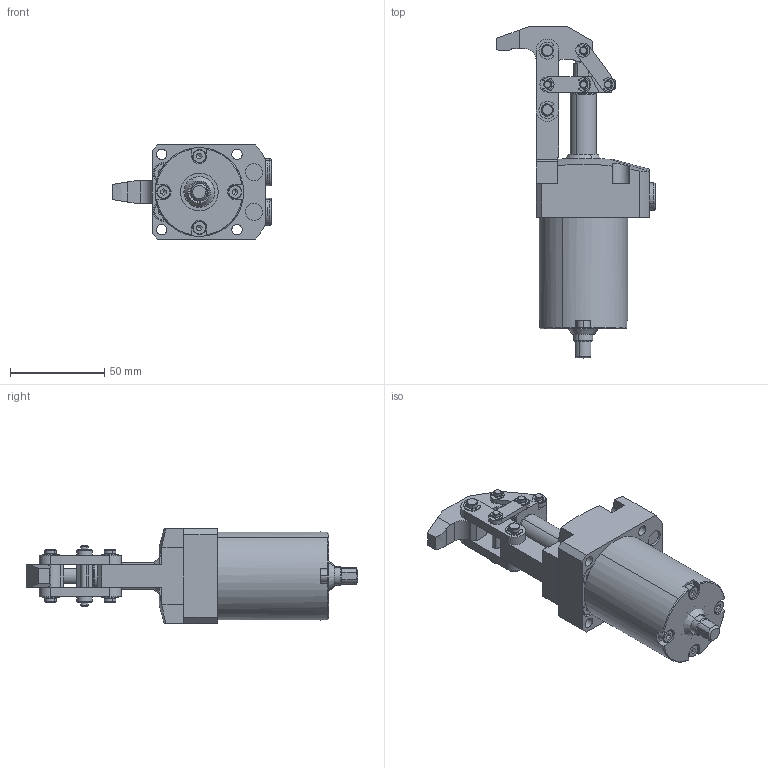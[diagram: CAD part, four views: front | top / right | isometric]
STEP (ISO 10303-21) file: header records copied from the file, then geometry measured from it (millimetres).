
FILE_DESCRIPTION(('CATIA V5 STEP Exchange'),'2;1');
FILE_NAME('\\Kjf-102\kjf_tc\Hydraulic_Clamp\Standard\HINGE_CLAMP\MLC-2547G_-\배포도면\MLC-2547GD_-.stp','2026-03-16T04:57:09+00:00',('none'),('none'),'CATIA Version 5 Release 19 SP 9 (IN-10)','CATIA V5 STEP AP203','none');
FILE_SCHEMA(('CONFIG_CONTROL_DESIGN'));
Length unit declared in the file: millimetre
Products named in the file (1): MLC-2547GD_-
Assembly tree (40 placements, depth 2):
  MLC-2547GD_-
    #58
    #1353
    #2789
    #4881
    #5672
    #6710
    #7701  x2
    #8086  x2
    #8406  x2
    #8726  x2
    #9210  x2
    #9727  x2
    #10211  x4
    #10934
    #11260  x8
    #12043  x4
    #12980  x2
    #13887  x2
    #15837
Bounding box: 84.25 x 176.03 x 50 mm (x, y, z)
Volume: 196211.9 mm3; surface area: 70306.5 mm2
Topology: 44 solids, 44 shells, 1074 faces, 2564 edges, 1634 vertices
Faces by surface type: cylinder 483, plane 368, cone 147, torus 70, bspline 4, extrusion 2
Entity records: 16072 total; most frequent: CARTESIAN_POINT 3407, ORIENTED_EDGE 2612, DIRECTION 2158, EDGE_CURVE 1306, AXIS2_PLACEMENT_3D 1085, VERTEX_POINT 829, EDGE_LOOP 665, CIRCLE 621
